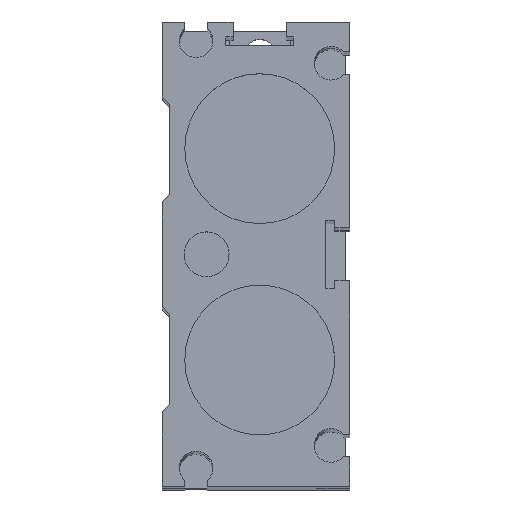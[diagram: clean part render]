
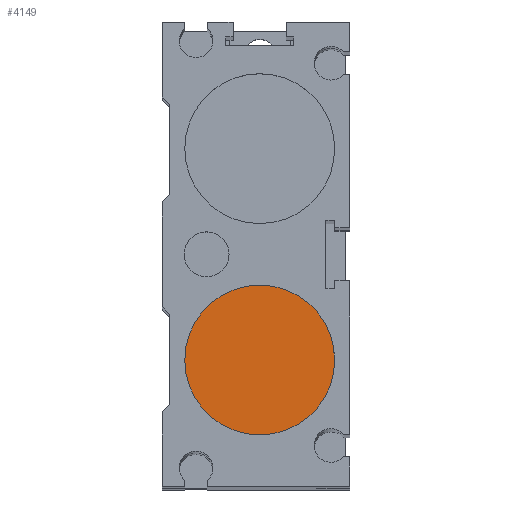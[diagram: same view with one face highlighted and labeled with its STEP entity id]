
A CAD part, top view. The second image highlights one B-rep face of the part: STEP entity #4149.
In plain terms, the highlighted planar face has unit normal (0, 0, 1).
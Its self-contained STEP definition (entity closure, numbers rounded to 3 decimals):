
#4126=CARTESIAN_POINT('',(10.0,-14.1,473.0));
#4127=VERTEX_POINT('',#4126);
#4128=CARTESIAN_POINT('',(0.0,-14.1,473.0));
#4129=DIRECTION('',(0.0,0.0,1.0));
#4130=DIRECTION('',(-1.0,0.0,0.0));
#4131=AXIS2_PLACEMENT_3D('',#4128,#4129,#4130);
#4132=CIRCLE('',#4131,10.0);
#4133=EDGE_CURVE('',#4127,#4127,#4132,.T.);
#4141=CARTESIAN_POINT('',(0.0,-14.1,473.0));
#4142=DIRECTION('',(0.0,0.0,-1.0));
#4143=DIRECTION('',(-1.0,0.0,0.0));
#4144=AXIS2_PLACEMENT_3D('',#4141,#4142,#4143);
#4145=PLANE('',#4144);
#4146=ORIENTED_EDGE('',*,*,#4133,.T.);
#4147=EDGE_LOOP('',(#4146));
#4148=FACE_OUTER_BOUND('',#4147,.T.);
#4149=ADVANCED_FACE('',(#4148),#4145,.F.);
